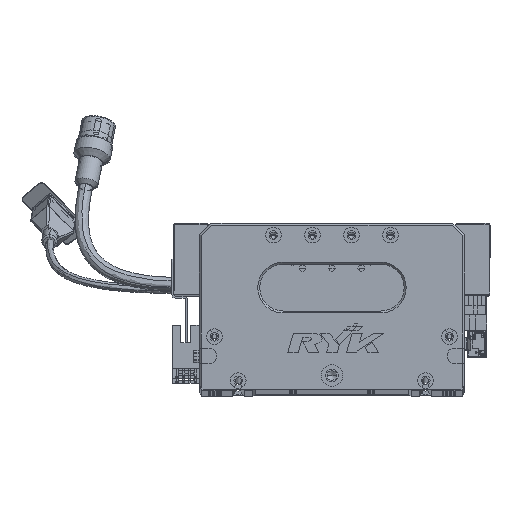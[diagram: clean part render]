
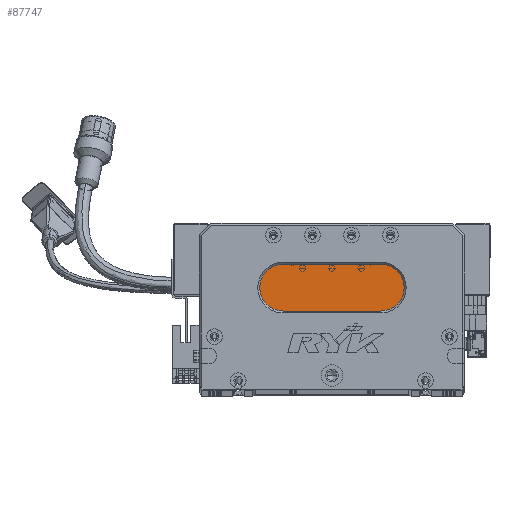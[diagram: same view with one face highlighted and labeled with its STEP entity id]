
A CAD part, top view. The second image highlights one B-rep face of the part: STEP entity #87747.
In plain terms, the highlighted planar face has unit normal (0, 0, 1) as drawn and (0, 0, -1) by its records, which use the part's own axes.
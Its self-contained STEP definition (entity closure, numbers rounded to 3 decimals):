
#599 = FACE_OUTER_BOUND ( 'NONE', #77928, .T. ) ;
#3913 = DIRECTION ( 'NONE',  ( 0., 0., -1. ) ) ;
#5807 = ORIENTED_EDGE ( 'NONE', *, *, #107490, .T. ) ;
#10026 = VECTOR ( 'NONE', #98249, 1000. ) ;
#11046 = VERTEX_POINT ( 'NONE', #18175 ) ;
#11557 = ORIENTED_EDGE ( 'NONE', *, *, #78216, .T. ) ;
#12745 = ORIENTED_EDGE ( 'NONE', *, *, #19506, .T. ) ;
#14780 = DIRECTION ( 'NONE',  ( 1., 0., 0. ) ) ;
#15958 = VECTOR ( 'NONE', #14780, 1000. ) ;
#16171 = VERTEX_POINT ( 'NONE', #29316 ) ;
#18175 = CARTESIAN_POINT ( 'NONE',  ( 93., 64., 13. ) ) ;
#18580 = AXIS2_PLACEMENT_3D ( 'NONE', #76783, #43312, #102096 ) ;
#18690 = CARTESIAN_POINT ( 'NONE',  ( 43., 52., 13. ) ) ;
#19412 = DIRECTION ( 'NONE',  ( 0., 0., -1. ) ) ;
#19506 = EDGE_CURVE ( 'NONE', #59547, #69724, #73113, .T. ) ;
#23372 = CARTESIAN_POINT ( 'NONE',  ( 43., 40., 13. ) ) ;
#27042 = CIRCLE ( 'NONE', #103545, 12. ) ;
#29316 = CARTESIAN_POINT ( 'NONE',  ( 43., 64., 13. ) ) ;
#31676 = CARTESIAN_POINT ( 'NONE',  ( 93., 64., 13. ) ) ;
#39553 = EDGE_CURVE ( 'NONE', #69724, #92376, #92964, .T. ) ;
#40937 = LINE ( 'NONE', #31676, #15958 ) ;
#42801 = DIRECTION ( 'NONE',  ( 0., 0., -1. ) ) ;
#43312 = DIRECTION ( 'NONE',  ( 0., 0., -1. ) ) ;
#44428 = CIRCLE ( 'NONE', #18580, 12. ) ;
#49451 = DIRECTION ( 'NONE',  ( -1., 0., 0. ) ) ;
#57352 = AXIS2_PLACEMENT_3D ( 'NONE', #84652, #42801, #49451 ) ;
#59547 = VERTEX_POINT ( 'NONE', #92815 ) ;
#69724 = VERTEX_POINT ( 'NONE', #23372 ) ;
#71200 = DIRECTION ( 'NONE',  ( -1., 0., 0. ) ) ;
#71325 = ORIENTED_EDGE ( 'NONE', *, *, #39553, .T. ) ;
#72088 = CARTESIAN_POINT ( 'NONE',  ( 31., 52., 13. ) ) ;
#73113 = LINE ( 'NONE', #105984, #10026 ) ;
#76783 = CARTESIAN_POINT ( 'NONE',  ( 43., 52., 13. ) ) ;
#77928 = EDGE_LOOP ( 'NONE', ( #80447, #12745, #71325, #5807, #11557 ) ) ;
#78216 = EDGE_CURVE ( 'NONE', #16171, #11046, #40937, .T. ) ;
#80447 = ORIENTED_EDGE ( 'NONE', *, *, #94701, .T. ) ;
#83214 = PLANE ( 'NONE',  #57352 ) ;
#84652 = CARTESIAN_POINT ( 'NONE',  ( 93., 52., 13. ) ) ;
#85143 = DIRECTION ( 'NONE',  ( -1., 0., 0. ) ) ;
#87747 = ADVANCED_FACE ( 'NONE', ( #599 ), #83214, .T. ) ;
#92376 = VERTEX_POINT ( 'NONE', #72088 ) ;
#92815 = CARTESIAN_POINT ( 'NONE',  ( 93., 40., 13. ) ) ;
#92964 = CIRCLE ( 'NONE', #101138, 12. ) ;
#94701 = EDGE_CURVE ( 'NONE', #11046, #59547, #27042, .T. ) ;
#98249 = DIRECTION ( 'NONE',  ( -1., 0., 0. ) ) ;
#101138 = AXIS2_PLACEMENT_3D ( 'NONE', #18690, #19412, #85143 ) ;
#102096 = DIRECTION ( 'NONE',  ( -1., 0., 0. ) ) ;
#103545 = AXIS2_PLACEMENT_3D ( 'NONE', #104604, #3913, #71200 ) ;
#104604 = CARTESIAN_POINT ( 'NONE',  ( 93., 52., 13. ) ) ;
#105984 = CARTESIAN_POINT ( 'NONE',  ( 93., 40., 13. ) ) ;
#107490 = EDGE_CURVE ( 'NONE', #92376, #16171, #44428, .T. ) ;
